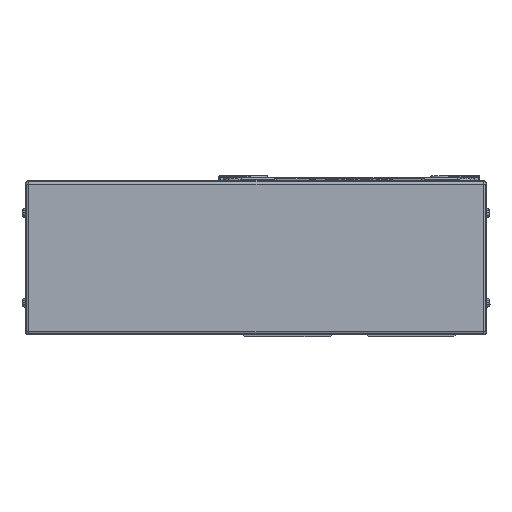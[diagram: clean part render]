
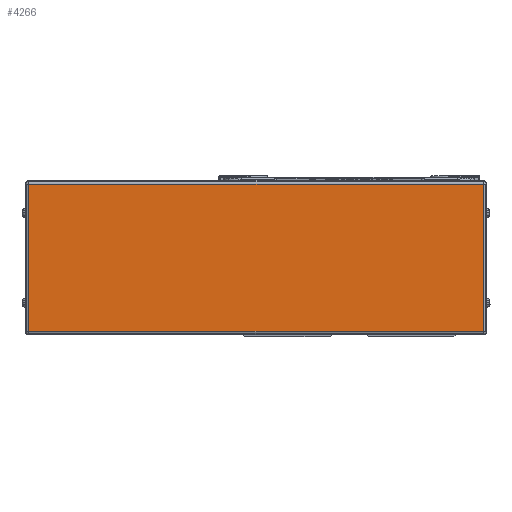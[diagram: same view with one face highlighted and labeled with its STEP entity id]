
A CAD part, left-side view. The second image highlights one B-rep face of the part: STEP entity #4266.
In plain terms, the highlighted planar face has unit normal (-1, 0, 0).
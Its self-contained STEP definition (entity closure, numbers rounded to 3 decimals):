
#4266=ADVANCED_FACE('',(#9663),#9664,.F.);
#9663=FACE_OUTER_BOUND('',#17033,.T.);
#9664=PLANE('',#17034);
#17033=EDGE_LOOP('',(#29865,#29866,#29867,#29868));
#17034=AXIS2_PLACEMENT_3D('',#29869,#29870,#29871);
#29865=ORIENTED_EDGE('',*,*,#44209,.T.);
#29866=ORIENTED_EDGE('',*,*,#45003,.T.);
#29867=ORIENTED_EDGE('',*,*,#45004,.T.);
#29868=ORIENTED_EDGE('',*,*,#41949,.T.);
#29869=CARTESIAN_POINT('',(-45.,180.5,0.));
#29870=DIRECTION('',(1.0,0.,0.));
#29871=DIRECTION('',(0.,0.,1.0));
#41949=EDGE_CURVE('',#50055,#50508,#50510,.T.);
#44209=EDGE_CURVE('',#50508,#54095,#54097,.T.);
#45003=EDGE_CURVE('',#54095,#55237,#55238,.T.);
#45004=EDGE_CURVE('',#55237,#50055,#55239,.T.);
#50055=VERTEX_POINT('',#61621);
#50508=VERTEX_POINT('',#62189);
#50510=LINE('',#62191,#62192);
#54095=VERTEX_POINT('',#67821);
#54097=LINE('',#67823,#67824);
#55237=VERTEX_POINT('',#69373);
#55238=LINE('',#69374,#69375);
#55239=LINE('',#69376,#69377);
#61621=CARTESIAN_POINT('',(-45.,-74.5,41.));
#62189=CARTESIAN_POINT('',(-45.,178.5,41.));
#62191=CARTESIAN_POINT('',(-45.,180.5,41.));
#62192=VECTOR('',#76207,10.0);
#67821=CARTESIAN_POINT('',(-45.,178.5,-41.));
#67823=CARTESIAN_POINT('',(-45.,178.5,0.));
#67824=VECTOR('',#79236,10.0);
#69373=CARTESIAN_POINT('',(-45.,-74.5,-41.));
#69374=CARTESIAN_POINT('',(-45.,180.5,-41.));
#69375=VECTOR('',#80244,10.0);
#69376=CARTESIAN_POINT('',(-45.,-74.5,0.));
#69377=VECTOR('',#80245,10.0);
#76207=DIRECTION('',(0.,1.0,0.));
#79236=DIRECTION('',(0.,0.,-1.0));
#80244=DIRECTION('',(0.,-1.0,0.));
#80245=DIRECTION('',(0.,0.,1.0));
